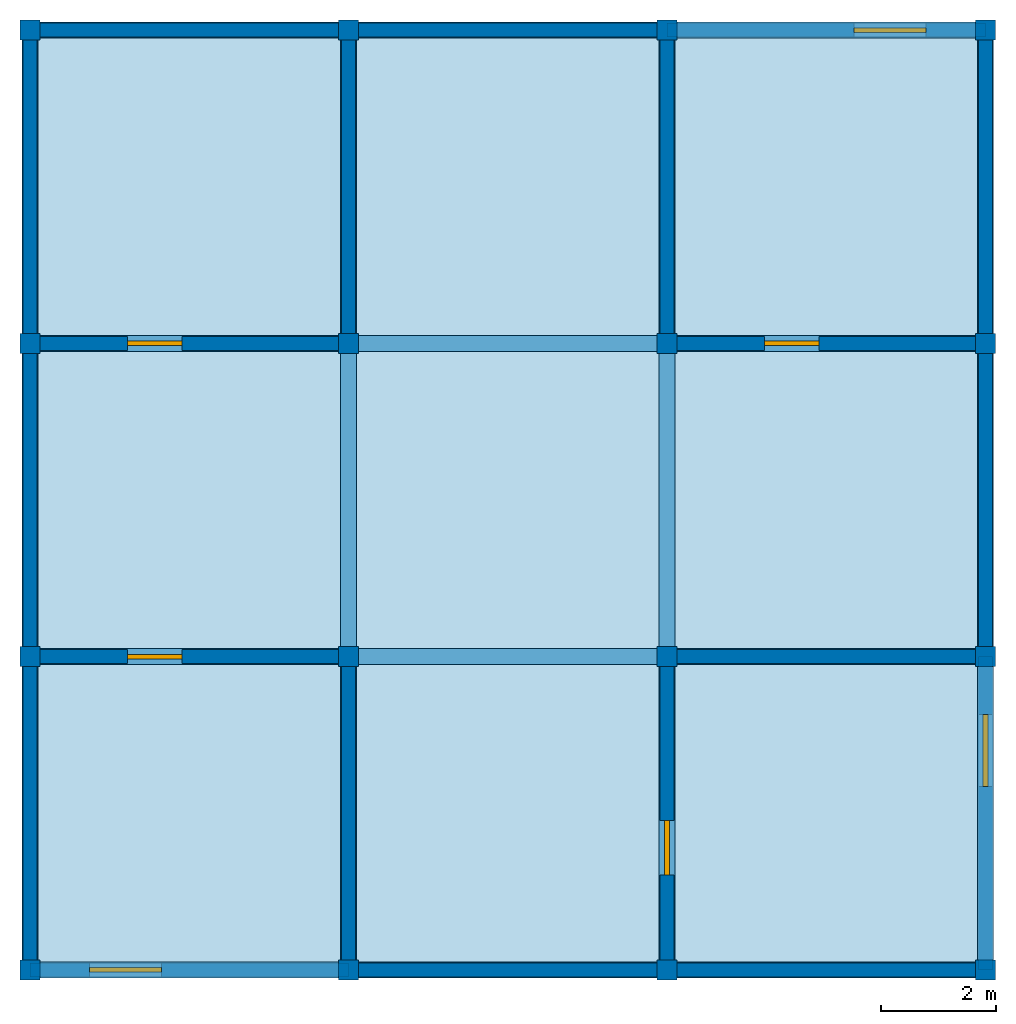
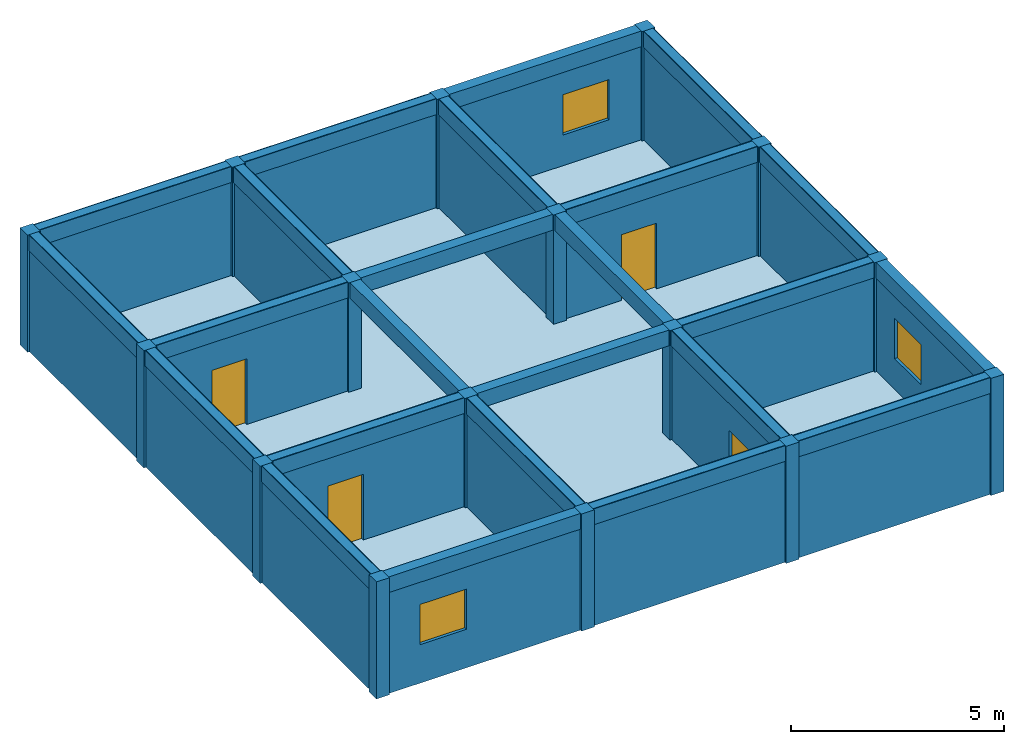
# One storey: 24 beams, 20 walls, 16 columns, 4 doors, 3 windows, 1 slab, 7 openings.
"""IFC4X3 building model written with IfcOpenShell, lengths in metres."""

from ifc_helpers import new_model, si_unit, frame, origin_with_axes, origin_2d, place, context, project, spatial, rectangle, extrude, material, element, fill, save


model = new_model("IFC4X3")

# Units and contexts
model_context = context("Model", 3, precision=1e-05, world=origin_with_axes())
ifc_project = project(units=[si_unit("LENGTHUNIT", "METRE"), si_unit("AREAUNIT", "SQUARE_METRE"), si_unit("VOLUMEUNIT", "CUBIC_METRE")], contexts=[model_context])

# Site, building, storey
site = spatial("IfcSite", under=ifc_project, Name="La Serena Parcel", CompositionType="ELEMENT")
building = spatial("IfcBuilding", under=site, Name="Atlas Building", CompositionType="ELEMENT")
storey = spatial("IfcBuildingStorey", under=building, Name="Level 4", CompositionType="ELEMENT", Elevation=10.05)

# Columns
ifc_material_1 = material(Name="Timber")
column_1_placement = place(None, frame((-8.31, -8.175, 10.047), z_axis=(0.0, 0.0, 1.0), x_axis=(1.0, 0.0, 0.0)))
element("IfcColumn", 1, at=column_1_placement, inside=storey, material=ifc_material_1, Name="Column 4.1", ObjectType="Corner Column", PredefinedType="USERDEFINED", context=model_context, shape_type="SweptSolid", body=[
    extrude(rectangle(XDim=0.35, YDim=0.35, at=origin_2d()), origin_with_axes(), (0.0, 0.0, 1.0), 3.349),
])
column_2_placement = place(None, frame((-8.31, -2.725, 10.047), z_axis=(0.0, 0.0, 1.0), x_axis=(1.0, 0.0, 0.0)))
element("IfcColumn", 2, at=column_2_placement, inside=storey, material=ifc_material_1, Name="Column 4.2", ObjectType="Core Column", PredefinedType="USERDEFINED", context=model_context, shape_type="SweptSolid", body=[
    extrude(rectangle(XDim=0.35, YDim=0.35, at=origin_2d()), origin_with_axes(), (0.0, 0.0, 1.0), 3.349),
])
column_3_placement = place(None, frame((-8.31, 2.725, 10.047), z_axis=(0.0, 0.0, 1.0), x_axis=(1.0, 0.0, 0.0)))
element("IfcColumn", 3, at=column_3_placement, inside=storey, material=ifc_material_1, Name="Column 4.3", ObjectType="Core Column", PredefinedType="NOTDEFINED", context=model_context, shape_type="SweptSolid", body=[
    extrude(rectangle(XDim=0.35, YDim=0.35, at=origin_2d()), origin_with_axes(), (0.0, 0.0, 1.0), 3.349),
])
column_4_placement = place(None, frame((-8.31, 8.175, 10.047), z_axis=(0.0, 0.0, 1.0), x_axis=(1.0, 0.0, 0.0)))
element("IfcColumn", 4, at=column_4_placement, inside=storey, material=ifc_material_1, Name="Column 4.4", ObjectType="Structural Column", PredefinedType="PILASTER", context=model_context, shape_type="SweptSolid", body=[
    extrude(rectangle(XDim=0.35, YDim=0.35, at=origin_2d()), origin_with_axes(), (0.0, 0.0, 1.0), 3.349),
])
column_5_placement = place(None, frame((-2.77, -8.175, 10.047), z_axis=(0.0, 0.0, 1.0), x_axis=(1.0, 0.0, 0.0)))
element("IfcColumn", 5, at=column_5_placement, inside=storey, material=ifc_material_1, Name="Column 4.5", ObjectType="Core Column", PredefinedType="NOTDEFINED", context=model_context, shape_type="SweptSolid", body=[
    extrude(rectangle(XDim=0.35, YDim=0.35, at=origin_2d()), origin_with_axes(), (0.0, 0.0, 1.0), 3.349),
])
column_6_placement = place(None, frame((-2.77, -2.725, 10.047), z_axis=(0.0, 0.0, 1.0), x_axis=(1.0, 0.0, 0.0)))
element("IfcColumn", 6, at=column_6_placement, inside=storey, material=ifc_material_1, Name="Column 4.6", ObjectType="Corner Column", PredefinedType="COLUMN", context=model_context, shape_type="SweptSolid", body=[
    extrude(rectangle(XDim=0.35, YDim=0.35, at=origin_2d()), origin_with_axes(), (0.0, 0.0, 1.0), 3.349),
])
column_7_placement = place(None, frame((-2.77, 2.725, 10.047), z_axis=(0.0, 0.0, 1.0), x_axis=(1.0, 0.0, 0.0)))
element("IfcColumn", 7, at=column_7_placement, inside=storey, material=ifc_material_1, Name="Column 4.7", ObjectType="Facade Column", PredefinedType="USERDEFINED", context=model_context, shape_type="SweptSolid", body=[
    extrude(rectangle(XDim=0.35, YDim=0.35, at=origin_2d()), origin_with_axes(), (0.0, 0.0, 1.0), 3.349),
])
column_8_placement = place(None, frame((-2.77, 8.175, 10.047), z_axis=(0.0, 0.0, 1.0), x_axis=(1.0, 0.0, 0.0)))
element("IfcColumn", 8, at=column_8_placement, inside=storey, material=ifc_material_1, Name="Column 4.8", ObjectType="Core Column", PredefinedType="USERDEFINED", context=model_context, shape_type="SweptSolid", body=[
    extrude(rectangle(XDim=0.35, YDim=0.35, at=origin_2d()), origin_with_axes(), (0.0, 0.0, 1.0), 3.349),
])
column_9_placement = place(None, frame((2.77, -8.175, 10.047), z_axis=(0.0, 0.0, 1.0), x_axis=(1.0, 0.0, 0.0)))
element("IfcColumn", 9, at=column_9_placement, inside=storey, material=ifc_material_1, Name="Column 4.9", ObjectType="Corner Column", PredefinedType="USERDEFINED", context=model_context, shape_type="SweptSolid", body=[
    extrude(rectangle(XDim=0.35, YDim=0.35, at=origin_2d()), origin_with_axes(), (0.0, 0.0, 1.0), 3.349),
])
column_10_placement = place(None, frame((2.77, -2.725, 10.047), z_axis=(0.0, 0.0, 1.0), x_axis=(1.0, 0.0, 0.0)))
element("IfcColumn", 10, at=column_10_placement, inside=storey, material=ifc_material_1, Name="Column 4.10", ObjectType="Core Column", PredefinedType="PILASTER", context=model_context, shape_type="SweptSolid", body=[
    extrude(rectangle(XDim=0.35, YDim=0.35, at=origin_2d()), origin_with_axes(), (0.0, 0.0, 1.0), 3.349),
])
column_11_placement = place(None, frame((2.77, 2.725, 10.047), z_axis=(0.0, 0.0, 1.0), x_axis=(1.0, 0.0, 0.0)))
element("IfcColumn", 11, at=column_11_placement, inside=storey, material=ifc_material_1, Name="Column 4.11", ObjectType="Corner Column", PredefinedType="PILASTER", context=model_context, shape_type="SweptSolid", body=[
    extrude(rectangle(XDim=0.35, YDim=0.35, at=origin_2d()), origin_with_axes(), (0.0, 0.0, 1.0), 3.349),
])
column_12_placement = place(None, frame((2.77, 8.175, 10.047), z_axis=(0.0, 0.0, 1.0), x_axis=(1.0, 0.0, 0.0)))
element("IfcColumn", 12, at=column_12_placement, inside=storey, material=ifc_material_1, Name="Column 4.12", ObjectType="Facade Column", PredefinedType="USERDEFINED", context=model_context, shape_type="SweptSolid", body=[
    extrude(rectangle(XDim=0.35, YDim=0.35, at=origin_2d()), origin_with_axes(), (0.0, 0.0, 1.0), 3.349),
])
column_13_placement = place(None, frame((8.31, -8.175, 10.047), z_axis=(0.0, 0.0, 1.0), x_axis=(1.0, 0.0, 0.0)))
element("IfcColumn", 13, at=column_13_placement, inside=storey, material=ifc_material_1, Name="Column 4.13", ObjectType="Core Column", PredefinedType="PILASTER", context=model_context, shape_type="SweptSolid", body=[
    extrude(rectangle(XDim=0.35, YDim=0.35, at=origin_2d()), origin_with_axes(), (0.0, 0.0, 1.0), 3.349),
])
column_14_placement = place(None, frame((8.31, -2.725, 10.047), z_axis=(0.0, 0.0, 1.0), x_axis=(1.0, 0.0, 0.0)))
element("IfcColumn", 14, at=column_14_placement, inside=storey, material=ifc_material_1, Name="Column 4.14", ObjectType="Structural Column", PredefinedType="USERDEFINED", context=model_context, shape_type="SweptSolid", body=[
    extrude(rectangle(XDim=0.35, YDim=0.35, at=origin_2d()), origin_with_axes(), (0.0, 0.0, 1.0), 3.349),
])
column_15_placement = place(None, frame((8.31, 2.725, 10.047), z_axis=(0.0, 0.0, 1.0), x_axis=(1.0, 0.0, 0.0)))
element("IfcColumn", 15, at=column_15_placement, inside=storey, material=ifc_material_1, Name="Column 4.15", ObjectType="Facade Column", PredefinedType="NOTDEFINED", context=model_context, shape_type="SweptSolid", body=[
    extrude(rectangle(XDim=0.35, YDim=0.35, at=origin_2d()), origin_with_axes(), (0.0, 0.0, 1.0), 3.349),
])
column_16_placement = place(None, frame((8.31, 8.175, 10.047), z_axis=(0.0, 0.0, 1.0), x_axis=(1.0, 0.0, 0.0)))
element("IfcColumn", 16, at=column_16_placement, inside=storey, material=ifc_material_1, Name="Column 4.16", ObjectType="Corner Column", PredefinedType="USERDEFINED", context=model_context, shape_type="SweptSolid", body=[
    extrude(rectangle(XDim=0.35, YDim=0.35, at=origin_2d()), origin_with_axes(), (0.0, 0.0, 1.0), 3.349),
])

# Beams
ifc_material_2 = material(Name="Concrete")
beam_1_placement = place(None, frame((-5.54, -8.175, 12.946), z_axis=(0.0, 0.0, 1.0), x_axis=(1.0, 0.0, 0.0)))
element("IfcBeam", 17, at=beam_1_placement, inside=storey, material=ifc_material_2, Name="Beam 4.1", ObjectType="Rafter Beam", PredefinedType="JOIST", context=model_context, shape_type="SweptSolid", body=[
    extrude(rectangle(XDim=5.54, YDim=0.28, at=origin_2d()), origin_with_axes(), (0.0, 0.0, 1.0), 0.45),
])
beam_2_placement = place(None, frame((0.0, -8.175, 12.946), z_axis=(0.0, 0.0, 1.0), x_axis=(1.0, 0.0, 0.0)))
element("IfcBeam", 18, at=beam_2_placement, inside=storey, material=ifc_material_2, Name="Beam 4.2", ObjectType="Ridge Beam", PredefinedType="LINTEL", context=model_context, shape_type="SweptSolid", body=[
    extrude(rectangle(XDim=5.54, YDim=0.28, at=origin_2d()), origin_with_axes(), (0.0, 0.0, 1.0), 0.45),
])
beam_3_placement = place(None, frame((5.54, -8.175, 12.946), z_axis=(0.0, 0.0, 1.0), x_axis=(1.0, 0.0, 0.0)))
element("IfcBeam", 19, at=beam_3_placement, inside=storey, material=ifc_material_2, Name="Beam 4.3", ObjectType="Secondary Beam", PredefinedType="LINTEL", context=model_context, shape_type="SweptSolid", body=[
    extrude(rectangle(XDim=5.54, YDim=0.28, at=origin_2d()), origin_with_axes(), (0.0, 0.0, 1.0), 0.45),
])
beam_4_placement = place(None, frame((-5.54, -2.725, 12.946), z_axis=(0.0, 0.0, 1.0), x_axis=(1.0, 0.0, 0.0)))
element("IfcBeam", 20, at=beam_4_placement, inside=storey, material=ifc_material_2, Name="Beam 4.4", ObjectType="Rafter Beam", PredefinedType="BEAM", context=model_context, shape_type="SweptSolid", body=[
    extrude(rectangle(XDim=5.54, YDim=0.28, at=origin_2d()), origin_with_axes(), (0.0, 0.0, 1.0), 0.45),
])
beam_5_placement = place(None, frame((0.0, -2.725, 12.946), z_axis=(0.0, 0.0, 1.0), x_axis=(1.0, 0.0, 0.0)))
element("IfcBeam", 21, at=beam_5_placement, inside=storey, material=ifc_material_2, Name="Beam 4.5", ObjectType="Transfer Beam", PredefinedType="USERDEFINED", context=model_context, shape_type="SweptSolid", body=[
    extrude(rectangle(XDim=5.54, YDim=0.28, at=origin_2d()), origin_with_axes(), (0.0, 0.0, 1.0), 0.45),
])
beam_6_placement = place(None, frame((5.54, -2.725, 12.946), z_axis=(0.0, 0.0, 1.0), x_axis=(1.0, 0.0, 0.0)))
element("IfcBeam", 22, at=beam_6_placement, inside=storey, material=ifc_material_2, Name="Beam 4.6", ObjectType="Ridge Beam", PredefinedType="USERDEFINED", context=model_context, shape_type="SweptSolid", body=[
    extrude(rectangle(XDim=5.54, YDim=0.28, at=origin_2d()), origin_with_axes(), (0.0, 0.0, 1.0), 0.45),
])
beam_7_placement = place(None, frame((-5.54, 2.725, 12.946), z_axis=(0.0, 0.0, 1.0), x_axis=(1.0, 0.0, 0.0)))
element("IfcBeam", 23, at=beam_7_placement, inside=storey, material=ifc_material_2, Name="Beam 4.7", ObjectType="Rafter Beam", PredefinedType="NOTDEFINED", context=model_context, shape_type="SweptSolid", body=[
    extrude(rectangle(XDim=5.54, YDim=0.28, at=origin_2d()), origin_with_axes(), (0.0, 0.0, 1.0), 0.45),
])
beam_8_placement = place(None, frame((0.0, 2.725, 12.946), z_axis=(0.0, 0.0, 1.0), x_axis=(1.0, 0.0, 0.0)))
element("IfcBeam", 24, at=beam_8_placement, inside=storey, material=ifc_material_2, Name="Beam 4.8", ObjectType="Transfer Beam", PredefinedType="LINTEL", context=model_context, shape_type="SweptSolid", body=[
    extrude(rectangle(XDim=5.54, YDim=0.28, at=origin_2d()), origin_with_axes(), (0.0, 0.0, 1.0), 0.45),
])
beam_9_placement = place(None, frame((5.54, 2.725, 12.946), z_axis=(0.0, 0.0, 1.0), x_axis=(1.0, 0.0, 0.0)))
element("IfcBeam", 25, at=beam_9_placement, inside=storey, material=ifc_material_2, Name="Beam 4.9", ObjectType="Primary Beam", PredefinedType="T_BEAM", context=model_context, shape_type="SweptSolid", body=[
    extrude(rectangle(XDim=5.54, YDim=0.28, at=origin_2d()), origin_with_axes(), (0.0, 0.0, 1.0), 0.45),
])
beam_10_placement = place(None, frame((-5.54, 8.175, 12.946), z_axis=(0.0, 0.0, 1.0), x_axis=(1.0, 0.0, 0.0)))
element("IfcBeam", 26, at=beam_10_placement, inside=storey, material=ifc_material_2, Name="Beam 4.10", ObjectType="Secondary Beam", PredefinedType="JOIST", context=model_context, shape_type="SweptSolid", body=[
    extrude(rectangle(XDim=5.54, YDim=0.28, at=origin_2d()), origin_with_axes(), (0.0, 0.0, 1.0), 0.45),
])
beam_11_placement = place(None, frame((0.0, 8.175, 12.946), z_axis=(0.0, 0.0, 1.0), x_axis=(1.0, 0.0, 0.0)))
element("IfcBeam", 27, at=beam_11_placement, inside=storey, material=ifc_material_2, Name="Beam 4.11", ObjectType="Primary Beam", PredefinedType="NOTDEFINED", context=model_context, shape_type="SweptSolid", body=[
    extrude(rectangle(XDim=5.54, YDim=0.28, at=origin_2d()), origin_with_axes(), (0.0, 0.0, 1.0), 0.45),
])
beam_12_placement = place(None, frame((5.54, 8.175, 12.946), z_axis=(0.0, 0.0, 1.0), x_axis=(1.0, 0.0, 0.0)))
element("IfcBeam", 28, at=beam_12_placement, inside=storey, material=ifc_material_2, Name="Beam 4.12", ObjectType="Primary Beam", PredefinedType="USERDEFINED", context=model_context, shape_type="SweptSolid", body=[
    extrude(rectangle(XDim=5.54, YDim=0.28, at=origin_2d()), origin_with_axes(), (0.0, 0.0, 1.0), 0.45),
])
beam_13_placement = place(None, frame((-8.31, -5.45, 12.946), z_axis=(0.0, 0.0, 1.0), x_axis=(0.0, 1.0, 0.0)))
element("IfcBeam", 29, at=beam_13_placement, inside=storey, material=ifc_material_2, Name="Beam 4.13", ObjectType="Rafter Beam", PredefinedType="SPANDREL", context=model_context, shape_type="SweptSolid", body=[
    extrude(rectangle(XDim=5.45, YDim=0.28, at=origin_2d()), origin_with_axes(), (0.0, 0.0, 1.0), 0.45),
])
beam_14_placement = place(None, frame((-8.31, 0.0, 12.946), z_axis=(0.0, 0.0, 1.0), x_axis=(0.0, 1.0, 0.0)))
element("IfcBeam", 30, at=beam_14_placement, inside=storey, material=ifc_material_2, Name="Beam 4.14", ObjectType="Secondary Beam", PredefinedType="SPANDREL", context=model_context, shape_type="SweptSolid", body=[
    extrude(rectangle(XDim=5.45, YDim=0.28, at=origin_2d()), origin_with_axes(), (0.0, 0.0, 1.0), 0.45),
])
beam_15_placement = place(None, frame((-8.31, 5.45, 12.946), z_axis=(0.0, 0.0, 1.0), x_axis=(0.0, 1.0, 0.0)))
element("IfcBeam", 31, at=beam_15_placement, inside=storey, material=ifc_material_2, Name="Beam 4.15", ObjectType="Primary Beam", PredefinedType="BEAM", context=model_context, shape_type="SweptSolid", body=[
    extrude(rectangle(XDim=5.45, YDim=0.28, at=origin_2d()), origin_with_axes(), (0.0, 0.0, 1.0), 0.45),
])
beam_16_placement = place(None, frame((-2.77, -5.45, 12.946), z_axis=(0.0, 0.0, 1.0), x_axis=(0.0, 1.0, 0.0)))
element("IfcBeam", 32, at=beam_16_placement, inside=storey, material=ifc_material_2, Name="Beam 4.16", ObjectType="Primary Beam", PredefinedType="NOTDEFINED", context=model_context, shape_type="SweptSolid", body=[
    extrude(rectangle(XDim=5.45, YDim=0.28, at=origin_2d()), origin_with_axes(), (0.0, 0.0, 1.0), 0.45),
])
beam_17_placement = place(None, frame((-2.77, 0.0, 12.946), z_axis=(0.0, 0.0, 1.0), x_axis=(0.0, 1.0, 0.0)))
element("IfcBeam", 33, at=beam_17_placement, inside=storey, material=ifc_material_2, Name="Beam 4.17", ObjectType="Rafter Beam", PredefinedType="T_BEAM", context=model_context, shape_type="SweptSolid", body=[
    extrude(rectangle(XDim=5.45, YDim=0.28, at=origin_2d()), origin_with_axes(), (0.0, 0.0, 1.0), 0.45),
])
beam_18_placement = place(None, frame((-2.77, 5.45, 12.946), z_axis=(0.0, 0.0, 1.0), x_axis=(0.0, 1.0, 0.0)))
element("IfcBeam", 34, at=beam_18_placement, inside=storey, material=ifc_material_2, Name="Beam 4.18", ObjectType="Transfer Beam", PredefinedType="HOLLOWCORE", context=model_context, shape_type="SweptSolid", body=[
    extrude(rectangle(XDim=5.45, YDim=0.28, at=origin_2d()), origin_with_axes(), (0.0, 0.0, 1.0), 0.45),
])
for number, where, z_axis, x_axis, name in (
    (35, (2.77, -5.45, 12.946), (0.0, 0.0, 1.0), (0.0, 1.0, 0.0), "Beam 4.19"),
    (36, (2.77, 0.0, 12.946), (0.0, 0.0, 1.0), (0.0, 1.0, 0.0), "Beam 4.20"),
):
    element("IfcBeam", number, at=place(None, frame(where, z_axis=z_axis, x_axis=x_axis)), inside=storey, material=ifc_material_2, Name=name, ObjectType="Transfer Beam", PredefinedType="BEAM", context=model_context, shape_type="SweptSolid", body=[
        extrude(rectangle(XDim=5.45, YDim=0.28, at=origin_2d()), origin_with_axes(), (0.0, 0.0, 1.0), 0.45),
    ])
beam_19_placement = place(None, frame((2.77, 5.45, 12.946), z_axis=(0.0, 0.0, 1.0), x_axis=(0.0, 1.0, 0.0)))
element("IfcBeam", 37, at=beam_19_placement, inside=storey, material=ifc_material_2, Name="Beam 4.21", ObjectType="Ridge Beam", PredefinedType="SPANDREL", context=model_context, shape_type="SweptSolid", body=[
    extrude(rectangle(XDim=5.45, YDim=0.28, at=origin_2d()), origin_with_axes(), (0.0, 0.0, 1.0), 0.45),
])
beam_20_placement = place(None, frame((8.31, -5.45, 12.946), z_axis=(0.0, 0.0, 1.0), x_axis=(0.0, 1.0, 0.0)))
element("IfcBeam", 38, at=beam_20_placement, inside=storey, material=ifc_material_2, Name="Beam 4.22", ObjectType="Primary Beam", PredefinedType="JOIST", context=model_context, shape_type="SweptSolid", body=[
    extrude(rectangle(XDim=5.45, YDim=0.28, at=origin_2d()), origin_with_axes(), (0.0, 0.0, 1.0), 0.45),
])
beam_21_placement = place(None, frame((8.31, 0.0, 12.946), z_axis=(0.0, 0.0, 1.0), x_axis=(0.0, 1.0, 0.0)))
element("IfcBeam", 39, at=beam_21_placement, inside=storey, material=ifc_material_2, Name="Beam 4.23", ObjectType="Rafter Beam", PredefinedType="BEAM", context=model_context, shape_type="SweptSolid", body=[
    extrude(rectangle(XDim=5.45, YDim=0.28, at=origin_2d()), origin_with_axes(), (0.0, 0.0, 1.0), 0.45),
])
beam_22_placement = place(None, frame((8.31, 5.45, 12.946), z_axis=(0.0, 0.0, 1.0), x_axis=(0.0, 1.0, 0.0)))
element("IfcBeam", 40, at=beam_22_placement, inside=storey, material=ifc_material_2, Name="Beam 4.24", ObjectType="Secondary Beam", PredefinedType="SPANDREL", context=model_context, shape_type="SweptSolid", body=[
    extrude(rectangle(XDim=5.45, YDim=0.28, at=origin_2d()), origin_with_axes(), (0.0, 0.0, 1.0), 0.45),
])

# Slab
ifc_material_3 = material(Name="Composite")
slab_placement = place(None, frame((0.0, 0.0, 10.05), z_axis=(0.0, 0.0, 1.0), x_axis=(1.0, 0.0, 0.0)))
element("IfcSlab", 41, at=slab_placement, inside=storey, material=ifc_material_3, Name="Slab 4", ObjectType="Floor Slab", PredefinedType="FLOOR", context=model_context, shape_type="SweptSolid", body=[
    extrude(rectangle(XDim=16.62, YDim=16.35, at=origin_2d()), origin_with_axes(), (0.0, 0.0, 1.0), 0.22),
])

# Wall, opening, door
wall_1_placement = place(None, frame((-5.54, -2.725, 10.047), z_axis=(0.0, 0.0, 1.0), x_axis=(1.0, 0.0, 0.0)))
wall_1 = element("IfcWall", 42, at=wall_1_placement, inside=storey, material=ifc_material_2, Name="Wall 4.1", ObjectType="Corridor Partition", PredefinedType="SHEAR", context=model_context, shape_type="SweptSolid", body=[
    extrude(rectangle(XDim=5.54, YDim=0.241795, at=origin_2d()), origin_with_axes(), (0.0, 0.0, 1.0), 3.349),
])
opening_1_placement = place(None, frame((-6.14, -2.725, 10.047), z_axis=(0.0, 0.0, 1.0), x_axis=(1.0, 0.0, 0.0)))
opening_1 = element("IfcOpeningElement", 43, at=opening_1_placement, cuts=wall_1, Name="Door opening 4.1", ObjectType="Door Opening", PredefinedType="OPENING", context=model_context, shape_type="SweptSolid", body=[
    extrude(rectangle(XDim=0.95, YDim=0.321795, at=origin_2d()), origin_with_axes(), (0.0, 0.0, 1.0), 2.1),
])
door_1_placement = place(None, frame((-6.14, -2.725, 10.047), z_axis=(0.0, 0.0, 1.0), x_axis=(1.0, 0.0, 0.0)))
door_1 = element("IfcDoor", 44, at=door_1_placement, inside=storey, Name="Door 4.1", ObjectType="Interior Door", OverallHeight=2.1, OverallWidth=0.95, context=model_context, shape_type="SweptSolid", body=[
    extrude(rectangle(XDim=0.95, YDim=0.08, at=origin_2d()), origin_with_axes(), (0.0, 0.0, 1.0), 2.1),
])
fill(opening_1, door_1)

# Wall
ifc_material_4 = material(Name="Brick")
wall_2_placement = place(None, frame((-2.77, -5.45, 10.047), z_axis=(0.0, 0.0, 1.0), x_axis=(0.0, 1.0, 0.0)))
element("IfcWall", 45, at=wall_2_placement, inside=storey, material=ifc_material_4, Name="Wall 4.2", ObjectType="Corridor Partition", PredefinedType="NOTDEFINED", context=model_context, shape_type="SweptSolid", body=[
    extrude(rectangle(XDim=5.45, YDim=0.241795, at=origin_2d()), origin_with_axes(), (0.0, 0.0, 1.0), 3.349),
])

# Wall, opening, window
ifc_material_5 = material(Name="Gypsum")
wall_3_placement = place(None, frame((-5.54, -8.175, 10.047), z_axis=(0.0, 0.0, 1.0), x_axis=(1.0, 0.0, 0.0)))
wall_3 = element("IfcWall", 46, at=wall_3_placement, inside=storey, material=ifc_material_5, Name="Wall 4.3", ObjectType="Exterior Wall", PredefinedType="PARTITIONING", context=model_context, shape_type="SweptSolid", body=[
    extrude(rectangle(XDim=5.54, YDim=0.241795, at=origin_2d()), origin_with_axes(), (0.0, 0.0, 1.0), 3.349),
])
opening_2_placement = place(None, frame((-6.648, -8.175, 11.147), z_axis=(0.0, 0.0, 1.0), x_axis=(1.0, 0.0, 0.0)))
opening_2 = element("IfcOpeningElement", 47, at=opening_2_placement, cuts=wall_3, Name="Window opening 4.2", ObjectType="Window Opening", PredefinedType="OPENING", context=model_context, shape_type="SweptSolid", body=[
    extrude(rectangle(XDim=1.25, YDim=0.321795, at=origin_2d()), origin_with_axes(), (0.0, 0.0, 1.0), 1.15),
])
window_1_placement = place(None, frame((-6.648, -8.175, 11.147), z_axis=(0.0, 0.0, 1.0), x_axis=(1.0, 0.0, 0.0)))
window_1 = element("IfcWindow", 48, at=window_1_placement, inside=storey, Name="Window 4.2", ObjectType="Fixed Window", OverallHeight=1.15, OverallWidth=1.25, context=model_context, shape_type="SweptSolid", body=[
    extrude(rectangle(XDim=1.25, YDim=0.08, at=origin_2d()), origin_with_axes(), (0.0, 0.0, 1.0), 1.15),
])
fill(opening_2, window_1)

# Wall
wall_4_placement = place(None, frame((-8.31, -5.45, 10.047), z_axis=(0.0, 0.0, 1.0), x_axis=(0.0, 1.0, 0.0)))
element("IfcWall", 49, at=wall_4_placement, inside=storey, material=ifc_material_2, Name="Wall 4.4", ObjectType="Exterior Wall", PredefinedType="USERDEFINED", context=model_context, shape_type="SweptSolid", body=[
    extrude(rectangle(XDim=5.45, YDim=0.241795, at=origin_2d()), origin_with_axes(), (0.0, 0.0, 1.0), 3.349),
])

# Wall, opening, door
ifc_material_6 = material(Name="CLT")
wall_5_placement = place(None, frame((2.77, -5.45, 10.047), z_axis=(0.0, 0.0, 1.0), x_axis=(0.0, 1.0, 0.0)))
wall_5 = element("IfcWall", 50, at=wall_5_placement, inside=storey, material=ifc_material_6, Name="Wall 4.5", ObjectType="Corridor Partition", PredefinedType="SHEAR", context=model_context, shape_type="SweptSolid", body=[
    extrude(rectangle(XDim=5.45, YDim=0.241795, at=origin_2d()), origin_with_axes(), (0.0, 0.0, 1.0), 3.349),
])
opening_3_placement = place(None, frame((2.77, -6.05, 10.047), z_axis=(0.0, 0.0, 1.0), x_axis=(0.0, 1.0, 0.0)))
opening_3 = element("IfcOpeningElement", 51, at=opening_3_placement, cuts=wall_5, Name="Door opening 4.3", ObjectType="Door Opening", PredefinedType="OPENING", context=model_context, shape_type="SweptSolid", body=[
    extrude(rectangle(XDim=0.95, YDim=0.321795, at=origin_2d()), origin_with_axes(), (0.0, 0.0, 1.0), 2.1),
])
door_2_placement = place(None, frame((2.77, -6.05, 10.047), z_axis=(0.0, 0.0, 1.0), x_axis=(0.0, 1.0, 0.0)))
door_2 = element("IfcDoor", 52, at=door_2_placement, inside=storey, Name="Door 4.3", ObjectType="Interior Door", OverallHeight=2.1, OverallWidth=0.95, context=model_context, shape_type="SweptSolid", body=[
    extrude(rectangle(XDim=0.95, YDim=0.08, at=origin_2d()), origin_with_axes(), (0.0, 0.0, 1.0), 2.1),
])
fill(opening_3, door_2)

# Walls
wall_6_placement = place(None, frame((0.0, -8.175, 10.047), z_axis=(0.0, 0.0, 1.0), x_axis=(1.0, 0.0, 0.0)))
element("IfcWall", 53, at=wall_6_placement, inside=storey, material=ifc_material_2, Name="Wall 4.6", ObjectType="Exterior Wall", PredefinedType="PARAPET", context=model_context, shape_type="SweptSolid", body=[
    extrude(rectangle(XDim=5.54, YDim=0.241795, at=origin_2d()), origin_with_axes(), (0.0, 0.0, 1.0), 3.349),
])
wall_7_placement = place(None, frame((5.54, -2.725, 10.047), z_axis=(0.0, 0.0, 1.0), x_axis=(1.0, 0.0, 0.0)))
element("IfcWall", 54, at=wall_7_placement, inside=storey, material=ifc_material_5, Name="Wall 4.7", ObjectType="Corridor Partition", PredefinedType="PARTITIONING", context=model_context, shape_type="SweptSolid", body=[
    extrude(rectangle(XDim=5.54, YDim=0.241795, at=origin_2d()), origin_with_axes(), (0.0, 0.0, 1.0), 3.349),
])

# Wall, opening, window
wall_8_placement = place(None, frame((8.31, -5.45, 10.047), z_axis=(0.0, 0.0, 1.0), x_axis=(0.0, 1.0, 0.0)))
wall_8 = element("IfcWall", 55, at=wall_8_placement, inside=storey, material=ifc_material_6, Name="Wall 4.8", ObjectType="Exterior Wall", PredefinedType="PARAPET", context=model_context, shape_type="SweptSolid", body=[
    extrude(rectangle(XDim=5.45, YDim=0.241795, at=origin_2d()), origin_with_axes(), (0.0, 0.0, 1.0), 3.349),
])
opening_4_placement = place(None, frame((8.31, -4.36, 11.147), z_axis=(0.0, 0.0, 1.0), x_axis=(0.0, 1.0, 0.0)))
opening_4 = element("IfcOpeningElement", 56, at=opening_4_placement, cuts=wall_8, Name="Window opening 4.4", ObjectType="Window Opening", PredefinedType="OPENING", context=model_context, shape_type="SweptSolid", body=[
    extrude(rectangle(XDim=1.25, YDim=0.321795, at=origin_2d()), origin_with_axes(), (0.0, 0.0, 1.0), 1.15),
])
window_2_placement = place(None, frame((8.31, -4.36, 11.147), z_axis=(0.0, 0.0, 1.0), x_axis=(0.0, 1.0, 0.0)))
window_2 = element("IfcWindow", 57, at=window_2_placement, inside=storey, Name="Window 4.4", ObjectType="Louvre Window", OverallHeight=1.15, OverallWidth=1.25, context=model_context, shape_type="SweptSolid", body=[
    extrude(rectangle(XDim=1.25, YDim=0.08, at=origin_2d()), origin_with_axes(), (0.0, 0.0, 1.0), 1.15),
])
fill(opening_4, window_2)

# Wall
wall_9_placement = place(None, frame((5.54, -8.175, 10.047), z_axis=(0.0, 0.0, 1.0), x_axis=(1.0, 0.0, 0.0)))
element("IfcWall", 58, at=wall_9_placement, inside=storey, material=ifc_material_4, Name="Wall 4.9", ObjectType="Exterior Wall", PredefinedType="ELEMENTEDWALL", context=model_context, shape_type="SweptSolid", body=[
    extrude(rectangle(XDim=5.54, YDim=0.241795, at=origin_2d()), origin_with_axes(), (0.0, 0.0, 1.0), 3.349),
])

# Wall, opening, door
wall_10_placement = place(None, frame((-5.54, 2.725, 10.047), z_axis=(0.0, 0.0, 1.0), x_axis=(1.0, 0.0, 0.0)))
wall_10 = element("IfcWall", 59, at=wall_10_placement, inside=storey, material=ifc_material_5, Name="Wall 4.10", ObjectType="Corridor Partition", PredefinedType="USERDEFINED", context=model_context, shape_type="SweptSolid", body=[
    extrude(rectangle(XDim=5.54, YDim=0.241795, at=origin_2d()), origin_with_axes(), (0.0, 0.0, 1.0), 3.349),
])
opening_5_placement = place(None, frame((-6.14, 2.725, 10.047), z_axis=(0.0, 0.0, 1.0), x_axis=(1.0, 0.0, 0.0)))
opening_5 = element("IfcOpeningElement", 60, at=opening_5_placement, cuts=wall_10, Name="Door opening 4.5", ObjectType="Door Opening", PredefinedType="OPENING", context=model_context, shape_type="SweptSolid", body=[
    extrude(rectangle(XDim=0.95, YDim=0.321795, at=origin_2d()), origin_with_axes(), (0.0, 0.0, 1.0), 2.1),
])
door_3_placement = place(None, frame((-6.14, 2.725, 10.047), z_axis=(0.0, 0.0, 1.0), x_axis=(1.0, 0.0, 0.0)))
door_3 = element("IfcDoor", 61, at=door_3_placement, inside=storey, Name="Door 4.5", ObjectType="Interior Door", OverallHeight=2.1, OverallWidth=0.95, context=model_context, shape_type="SweptSolid", body=[
    extrude(rectangle(XDim=0.95, YDim=0.08, at=origin_2d()), origin_with_axes(), (0.0, 0.0, 1.0), 2.1),
])
fill(opening_5, door_3)

# Wall
wall_11_placement = place(None, frame((-8.31, 0.0, 10.047), z_axis=(0.0, 0.0, 1.0), x_axis=(0.0, 1.0, 0.0)))
element("IfcWall", 62, at=wall_11_placement, inside=storey, material=ifc_material_5, Name="Wall 4.11", ObjectType="Exterior Wall", PredefinedType="STANDARD", context=model_context, shape_type="SweptSolid", body=[
    extrude(rectangle(XDim=5.45, YDim=0.241795, at=origin_2d()), origin_with_axes(), (0.0, 0.0, 1.0), 3.349),
])

# Wall, opening, door
wall_12_placement = place(None, frame((5.54, 2.725, 10.047), z_axis=(0.0, 0.0, 1.0), x_axis=(1.0, 0.0, 0.0)))
wall_12 = element("IfcWall", 63, at=wall_12_placement, inside=storey, material=ifc_material_5, Name="Wall 4.12", ObjectType="Corridor Partition", PredefinedType="STANDARD", context=model_context, shape_type="SweptSolid", body=[
    extrude(rectangle(XDim=5.54, YDim=0.241795, at=origin_2d()), origin_with_axes(), (0.0, 0.0, 1.0), 3.349),
])
opening_6_placement = place(None, frame((4.94, 2.725, 10.047), z_axis=(0.0, 0.0, 1.0), x_axis=(1.0, 0.0, 0.0)))
opening_6 = element("IfcOpeningElement", 64, at=opening_6_placement, cuts=wall_12, Name="Door opening 4.6", ObjectType="Door Opening", PredefinedType="OPENING", context=model_context, shape_type="SweptSolid", body=[
    extrude(rectangle(XDim=0.95, YDim=0.321795, at=origin_2d()), origin_with_axes(), (0.0, 0.0, 1.0), 2.1),
])
door_4_placement = place(None, frame((4.94, 2.725, 10.047), z_axis=(0.0, 0.0, 1.0), x_axis=(1.0, 0.0, 0.0)))
door_4 = element("IfcDoor", 65, at=door_4_placement, inside=storey, Name="Door 4.6", ObjectType="Entry Door", OverallHeight=2.1, OverallWidth=0.95, context=model_context, shape_type="SweptSolid", body=[
    extrude(rectangle(XDim=0.95, YDim=0.08, at=origin_2d()), origin_with_axes(), (0.0, 0.0, 1.0), 2.1),
])
fill(opening_6, door_4)

# Walls
wall_13_placement = place(None, frame((8.31, 0.0, 10.047), z_axis=(0.0, 0.0, 1.0), x_axis=(0.0, 1.0, 0.0)))
element("IfcWall", 66, at=wall_13_placement, inside=storey, material=ifc_material_2, Name="Wall 4.13", ObjectType="Exterior Wall", PredefinedType="ELEMENTEDWALL", context=model_context, shape_type="SweptSolid", body=[
    extrude(rectangle(XDim=5.45, YDim=0.241795, at=origin_2d()), origin_with_axes(), (0.0, 0.0, 1.0), 3.349),
])
wall_14_placement = place(None, frame((-5.54, 8.175, 10.047), z_axis=(0.0, 0.0, 1.0), x_axis=(1.0, 0.0, 0.0)))
element("IfcWall", 67, at=wall_14_placement, inside=storey, material=ifc_material_2, Name="Wall 4.14", ObjectType="Exterior Wall", PredefinedType="PARAPET", context=model_context, shape_type="SweptSolid", body=[
    extrude(rectangle(XDim=5.54, YDim=0.241795, at=origin_2d()), origin_with_axes(), (0.0, 0.0, 1.0), 3.349),
])
wall_15_placement = place(None, frame((-2.77, 5.45, 10.047), z_axis=(0.0, 0.0, 1.0), x_axis=(0.0, 1.0, 0.0)))
element("IfcWall", 68, at=wall_15_placement, inside=storey, material=ifc_material_4, Name="Wall 4.15", ObjectType="Corridor Partition", PredefinedType="ELEMENTEDWALL", context=model_context, shape_type="SweptSolid", body=[
    extrude(rectangle(XDim=5.45, YDim=0.241795, at=origin_2d()), origin_with_axes(), (0.0, 0.0, 1.0), 3.349),
])
wall_16_placement = place(None, frame((-8.31, 5.45, 10.047), z_axis=(0.0, 0.0, 1.0), x_axis=(0.0, 1.0, 0.0)))
element("IfcWall", 69, at=wall_16_placement, inside=storey, material=ifc_material_2, Name="Wall 4.16", ObjectType="Exterior Wall", PredefinedType="PARAPET", context=model_context, shape_type="SweptSolid", body=[
    extrude(rectangle(XDim=5.45, YDim=0.241795, at=origin_2d()), origin_with_axes(), (0.0, 0.0, 1.0), 3.349),
])
wall_17_placement = place(None, frame((0.0, 8.175, 10.047), z_axis=(0.0, 0.0, 1.0), x_axis=(1.0, 0.0, 0.0)))
element("IfcWall", 70, at=wall_17_placement, inside=storey, material=ifc_material_4, Name="Wall 4.17", ObjectType="Exterior Wall", PredefinedType="POLYGONAL", context=model_context, shape_type="SweptSolid", body=[
    extrude(rectangle(XDim=5.54, YDim=0.241795, at=origin_2d()), origin_with_axes(), (0.0, 0.0, 1.0), 3.349),
])
wall_18_placement = place(None, frame((2.77, 5.45, 10.047), z_axis=(0.0, 0.0, 1.0), x_axis=(0.0, 1.0, 0.0)))
element("IfcWall", 71, at=wall_18_placement, inside=storey, material=ifc_material_5, Name="Wall 4.18", ObjectType="Corridor Partition", PredefinedType="SOLIDWALL", context=model_context, shape_type="SweptSolid", body=[
    extrude(rectangle(XDim=5.45, YDim=0.241795, at=origin_2d()), origin_with_axes(), (0.0, 0.0, 1.0), 3.349),
])

# Wall, opening, window
wall_19_placement = place(None, frame((5.54, 8.175, 10.047), z_axis=(0.0, 0.0, 1.0), x_axis=(1.0, 0.0, 0.0)))
wall_19 = element("IfcWall", 72, at=wall_19_placement, inside=storey, material=ifc_material_4, Name="Wall 4.19", ObjectType="Exterior Wall", PredefinedType="NOTDEFINED", context=model_context, shape_type="SweptSolid", body=[
    extrude(rectangle(XDim=5.54, YDim=0.241795, at=origin_2d()), origin_with_axes(), (0.0, 0.0, 1.0), 3.349),
])
opening_7_placement = place(None, frame((6.648, 8.175, 11.147), z_axis=(0.0, 0.0, 1.0), x_axis=(1.0, 0.0, 0.0)))
opening_7 = element("IfcOpeningElement", 73, at=opening_7_placement, cuts=wall_19, Name="Window opening 4.7", ObjectType="Window Opening", PredefinedType="OPENING", context=model_context, shape_type="SweptSolid", body=[
    extrude(rectangle(XDim=1.25, YDim=0.321795, at=origin_2d()), origin_with_axes(), (0.0, 0.0, 1.0), 1.15),
])
window_3_placement = place(None, frame((6.648, 8.175, 11.147), z_axis=(0.0, 0.0, 1.0), x_axis=(1.0, 0.0, 0.0)))
window_3 = element("IfcWindow", 74, at=window_3_placement, inside=storey, Name="Window 4.7", ObjectType="Louvre Window", OverallHeight=1.15, OverallWidth=1.25, context=model_context, shape_type="SweptSolid", body=[
    extrude(rectangle(XDim=1.25, YDim=0.08, at=origin_2d()), origin_with_axes(), (0.0, 0.0, 1.0), 1.15),
])
fill(opening_7, window_3)

# Wall
wall_20_placement = place(None, frame((8.31, 5.45, 10.047), z_axis=(0.0, 0.0, 1.0), x_axis=(0.0, 1.0, 0.0)))
element("IfcWall", 75, at=wall_20_placement, inside=storey, material=ifc_material_2, Name="Wall 4.20", ObjectType="Exterior Wall", PredefinedType="STANDARD", context=model_context, shape_type="SweptSolid", body=[
    extrude(rectangle(XDim=5.45, YDim=0.241795, at=origin_2d()), origin_with_axes(), (0.0, 0.0, 1.0), 3.349),
])

save(model, "model.ifc")
